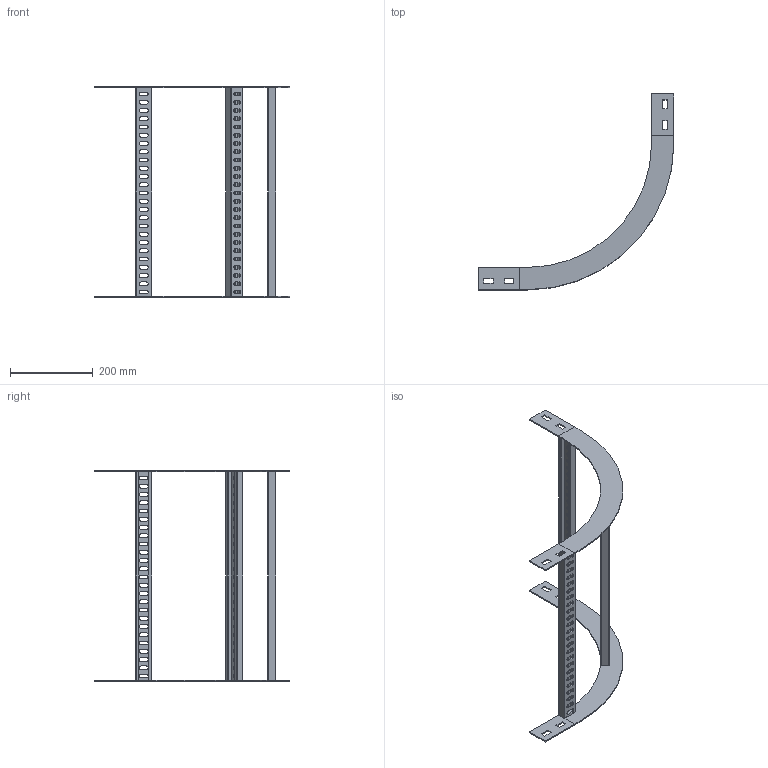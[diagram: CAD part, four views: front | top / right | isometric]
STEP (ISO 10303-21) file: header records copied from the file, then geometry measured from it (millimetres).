
FILE_DESCRIPTION(/* description */ ('','CAx-IF Rec.Pracs.---Representation and Presentation of Product Manufacturing Information (PMI)---4.0---2014-10-13'),/* implementation_level */ '2;1');
FILE_NAME(/* name */ 'Eurostrut_EOR60-500-300_Outisde Riser 90 for Cable Ladder ECL.step',/* time_stamp */ '2026-09-07T11:23:14+02:00',/* author */ (''),/* organization */ (''),/* preprocessor_version */ 'ST-DEVELOPER v20.1',/* originating_system */ 'Autodesk Revit 2027 27.2.0.39',/* authorisation */ '');
FILE_SCHEMA (('AP242_MANAGED_MODEL_BASED_3D_ENGINEERING_MIM_LF { 1 0 10303 442 2 1 4 }'));
Length unit declared in the file: millimetre
Products named in the file (4): TopLevelAssembly; Eurostrut_Cable Ladder_Accessory End_54-94-142; Eurostrut_Cable Ladder_Rung_V2 Vertical_Array EOR_Slotted; Sweep
Assembly tree (6 placements, depth 2):
  TopLevelAssembly
    Eurostrut_Cable Ladder_Accessory End_54-94-142  x4
    Eurostrut_Cable Ladder_Rung_V2 Vertical_Array EOR_Slotted
    Sweep
Bounding box: 474 x 474 x 511 mm (x, y, z)
Volume: 416855.5 mm3; surface area: 421300.6 mm2
Topology: 9 solids, 9 shells, 430 faces, 1236 edges, 824 vertices
Faces by surface type: plane 264, bspline 150, cylinder 16
Entity records: 17478 total; most frequent: CARTESIAN_POINT 6928, ORIENTED_EDGE 2256, DIRECTION 1956, EDGE_CURVE 1128, LINE 796, VECTOR 796, VERTEX_POINT 752, AXIS2_PLACEMENT_3D 580
